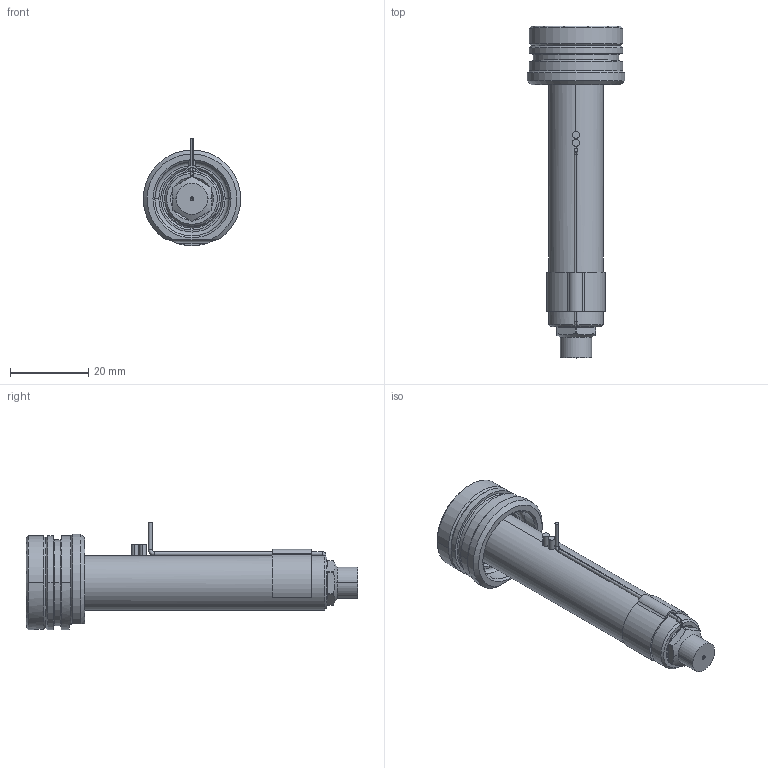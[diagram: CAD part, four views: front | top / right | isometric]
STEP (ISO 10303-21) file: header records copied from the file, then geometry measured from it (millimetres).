
FILE_DESCRIPTION((''),'2;1');
FILE_NAME('EO04_PG-FB_STD_070_SW','2024-02-19T11:20:59',('sundharh'),(''),'CREO PARAMETRIC BY PTC INC, 2023154','CREO PARAMETRIC BY PTC INC, 2023154','');
FILE_SCHEMA(('CONFIG_CONTROL_DESIGN'));
Length unit declared in the file: millimetre
Products named in the file (1): EO04_PG-FB_STD_070_SW
Bounding box: 24.99 x 85 x 27.5 mm (x, y, z)
Volume: 15188.7 mm3; surface area: 8098.3 mm2
Topology: 2 solids, 2 shells, 223 faces, 599 edges, 366 vertices
Faces by surface type: cylinder 84, plane 59, cone 44, torus 22, bspline 11, sphere 3
Entity records: 8170 total; most frequent: CARTESIAN_POINT 2538, DIRECTION 1225, ORIENTED_EDGE 1182, EDGE_CURVE 591, AXIS2_PLACEMENT_3D 514, VERTEX_POINT 366, CIRCLE 302, EDGE_LOOP 239
